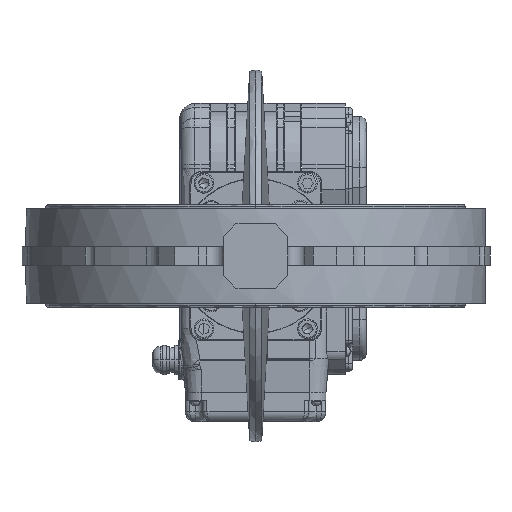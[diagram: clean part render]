
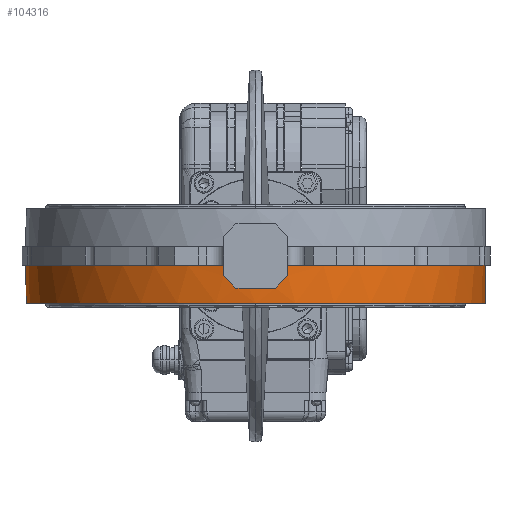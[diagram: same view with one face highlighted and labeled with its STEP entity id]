
A CAD part, front view. The second image highlights one B-rep face of the part: STEP entity #104316.
In plain terms, the highlighted conical face has half-angle 1.013 degrees and reference radius 186.548 mm.
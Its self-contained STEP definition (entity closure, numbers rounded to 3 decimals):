
#2987 = ORIENTED_EDGE ( 'NONE', *, *, #92356, .T. ) ;
#3314 = ORIENTED_EDGE ( 'NONE', *, *, #9504, .T. ) ;
#7106 = VECTOR ( 'NONE', #72725, 1000. ) ;
#9504 = EDGE_CURVE ( 'NONE', #18935, #60665, #19362, .T. ) ;
#12051 = CIRCLE ( 'NONE', #83320, 186.548 ) ;
#12145 = ORIENTED_EDGE ( 'NONE', *, *, #82039, .T. ) ;
#15359 = CARTESIAN_POINT ( 'NONE',  ( -186.548, 0., -7.5 ) ) ;
#16481 = CARTESIAN_POINT ( 'NONE',  ( 16., -185.532, -26. ) ) ;
#16822 = CARTESIAN_POINT ( 'NONE',  ( -16., -185.532, -26. ) ) ;
#17786 = CARTESIAN_POINT ( 'NONE',  ( 26., -184.727, -7.5 ) ) ;
#18935 = VERTEX_POINT ( 'NONE', #54972 ) ;
#19226 = DIRECTION ( 'NONE',  ( 0., 0., -1. ) ) ;
#19362 =( BOUNDED_CURVE ( )  B_SPLINE_CURVE ( 3, ( #16822, #64164, #40715, #41734 ),
 .UNSPECIFIED., .F., .T. ) 
 B_SPLINE_CURVE_WITH_KNOTS ( ( 4, 4 ),
 ( 4.781, 4.835 ),
 .UNSPECIFIED. ) 
 CURVE ( )  GEOMETRIC_REPRESENTATION_ITEM ( )  RATIONAL_B_SPLINE_CURVE ( ( 1., 1., 1., 1. ) ) 
 REPRESENTATION_ITEM ( '' )  );
#20999 = CARTESIAN_POINT ( 'NONE',  ( 0., 0., -7.5 ) ) ;
#21391 = VERTEX_POINT ( 'NONE', #97030 ) ;
#21530 = CARTESIAN_POINT ( 'NONE',  ( 0., 0., -7.5 ) ) ;
#26313 = CARTESIAN_POINT ( 'NONE',  ( 26., -184.677, -10.333 ) ) ;
#27920 = CARTESIAN_POINT ( 'NONE',  ( 26., -184.727, -7.5 ) ) ;
#28275 = ORIENTED_EDGE ( 'NONE', *, *, #80961, .T. ) ;
#28597 = VERTEX_POINT ( 'NONE', #72750 ) ;
#29683 = VECTOR ( 'NONE', #46387, 1000. ) ;
#31813 = CARTESIAN_POINT ( 'NONE',  ( 186., 0., -38.5 ) ) ;
#31894 = CARTESIAN_POINT ( 'NONE',  ( 22.676, -184.985, -19.324 ) ) ;
#33468 = EDGE_CURVE ( 'NONE', #43478, #18935, #81772, .T. ) ;
#34260 = CARTESIAN_POINT ( 'NONE',  ( 26., -184.576, -16. ) ) ;
#38008 = EDGE_CURVE ( 'NONE', #103560, #43478, #85423, .T. ) ;
#39180 = CARTESIAN_POINT ( 'NONE',  ( -26., -184.677, -10.333 ) ) ;
#40715 = CARTESIAN_POINT ( 'NONE',  ( -22.676, -184.985, -19.324 ) ) ;
#41734 = CARTESIAN_POINT ( 'NONE',  ( -26., -184.576, -16. ) ) ;
#42946 = ORIENTED_EDGE ( 'NONE', *, *, #61543, .T. ) ;
#43339 = DIRECTION ( 'NONE',  ( 1., 0., 0. ) ) ;
#43478 = VERTEX_POINT ( 'NONE', #86624 ) ;
#43631 = CARTESIAN_POINT ( 'NONE',  ( 0., 0., -7.5 ) ) ;
#43770 = DIRECTION ( 'NONE',  ( 0., 0., -1. ) ) ;
#44376 = AXIS2_PLACEMENT_3D ( 'NONE', #44804, #43770, #91162 ) ;
#44804 = CARTESIAN_POINT ( 'NONE',  ( 0., 0., -26. ) ) ;
#46387 = DIRECTION ( 'NONE',  ( 0.018, 0., 1. ) ) ;
#47130 = CARTESIAN_POINT ( 'NONE',  ( -26., -184.626, -13.167 ) ) ;
#48599 = CARTESIAN_POINT ( 'NONE',  ( 26., -184.576, -16. ) ) ;
#48769 = LINE ( 'NONE', #15359, #7106 ) ;
#51029 = DIRECTION ( 'NONE',  ( 1., 0., 0. ) ) ;
#52975 = AXIS2_PLACEMENT_3D ( 'NONE', #43631, #19226, #58599 ) ;
#53390 = FACE_OUTER_BOUND ( 'NONE', #87241, .T. ) ;
#53805 = ORIENTED_EDGE ( 'NONE', *, *, #38008, .T. ) ;
#53921 = DIRECTION ( 'NONE',  ( 0., 0., 1. ) ) ;
#54972 = CARTESIAN_POINT ( 'NONE',  ( -16., -185.532, -26. ) ) ;
#56478 = ORIENTED_EDGE ( 'NONE', *, *, #83066, .F. ) ;
#58027 = AXIS2_PLACEMENT_3D ( 'NONE', #59041, #67034, #51029 ) ;
#58599 = DIRECTION ( 'NONE',  ( 1., 0., 0. ) ) ;
#59041 = CARTESIAN_POINT ( 'NONE',  ( 0., 0., -38.5 ) ) ;
#60665 = VERTEX_POINT ( 'NONE', #69355 ) ;
#61543 = EDGE_CURVE ( 'NONE', #21391, #78620, #88585, .T. ) ;
#61676 = B_SPLINE_CURVE_WITH_KNOTS ( 'NONE', 3,
 ( #17786, #26313, #73571, #34260 ),
 .UNSPECIFIED., .F., .F.,
 ( 4, 4 ),
 ( 0., 1. ),
 .UNSPECIFIED. ) ;
#62398 = CARTESIAN_POINT ( 'NONE',  ( 186.548, 0., -7.5 ) ) ;
#64164 = CARTESIAN_POINT ( 'NONE',  ( -19.342, -185.304, -22.658 ) ) ;
#64334 = CARTESIAN_POINT ( 'NONE',  ( 19.342, -185.304, -22.658 ) ) ;
#66134 = CARTESIAN_POINT ( 'NONE',  ( -26., -184.727, -7.5 ) ) ;
#67034 = DIRECTION ( 'NONE',  ( 0., 0., 1. ) ) ;
#68314 = ORIENTED_EDGE ( 'NONE', *, *, #33468, .T. ) ;
#69355 = CARTESIAN_POINT ( 'NONE',  ( -26., -184.576, -16. ) ) ;
#72725 = DIRECTION ( 'NONE',  ( -0.018, 0., 1. ) ) ;
#72750 = CARTESIAN_POINT ( 'NONE',  ( 186.548, 0., -7.5 ) ) ;
#73571 = CARTESIAN_POINT ( 'NONE',  ( 26., -184.626, -13.167 ) ) ;
#75807 = VERTEX_POINT ( 'NONE', #87423 ) ;
#78620 = VERTEX_POINT ( 'NONE', #31813 ) ;
#79136 = CONICAL_SURFACE ( 'NONE', #82478, 186.548, 0.018 ) ;
#80059 = CARTESIAN_POINT ( 'NONE',  ( -26., -184.576, -16. ) ) ;
#80961 = EDGE_CURVE ( 'NONE', #28597, #90479, #12051, .T. ) ;
#81772 = CIRCLE ( 'NONE', #44376, 186.221 ) ;
#82039 = EDGE_CURVE ( 'NONE', #83975, #75807, #103955, .T. ) ;
#82061 = B_SPLINE_CURVE_WITH_KNOTS ( 'NONE', 3,
 ( #80059, #47130, #39180, #90729 ),
 .UNSPECIFIED., .F., .F.,
 ( 4, 4 ),
 ( 0., 1. ),
 .UNSPECIFIED. ) ;
#82478 = AXIS2_PLACEMENT_3D ( 'NONE', #20999, #53921, #85805 ) ;
#83066 = EDGE_CURVE ( 'NONE', #21391, #75807, #48769, .T. ) ;
#83320 = AXIS2_PLACEMENT_3D ( 'NONE', #21530, #84265, #43339 ) ;
#83975 = VERTEX_POINT ( 'NONE', #66134 ) ;
#84265 = DIRECTION ( 'NONE',  ( 0., 0., -1. ) ) ;
#85423 =( BOUNDED_CURVE ( )  B_SPLINE_CURVE ( 3, ( #104750, #31894, #64334, #16481 ),
 .UNSPECIFIED., .F., .T. ) 
 B_SPLINE_CURVE_WITH_KNOTS ( ( 4, 4 ),
 ( 1.448, 1.502 ),
 .UNSPECIFIED. ) 
 CURVE ( )  GEOMETRIC_REPRESENTATION_ITEM ( )  RATIONAL_B_SPLINE_CURVE ( ( 1., 1., 1., 1. ) ) 
 REPRESENTATION_ITEM ( '' )  );
#85805 = DIRECTION ( 'NONE',  ( 1., 0., 0. ) ) ;
#86276 = LINE ( 'NONE', #62398, #29683 ) ;
#86624 = CARTESIAN_POINT ( 'NONE',  ( 16., -185.532, -26. ) ) ;
#87241 = EDGE_LOOP ( 'NONE', ( #56478, #42946, #95840, #28275, #100773, #53805, #68314, #3314, #2987, #12145 ) ) ;
#87423 = CARTESIAN_POINT ( 'NONE',  ( -186.548, 0., -7.5 ) ) ;
#88585 = CIRCLE ( 'NONE', #58027, 186. ) ;
#90445 = EDGE_CURVE ( 'NONE', #78620, #28597, #86276, .T. ) ;
#90479 = VERTEX_POINT ( 'NONE', #27920 ) ;
#90729 = CARTESIAN_POINT ( 'NONE',  ( -26., -184.727, -7.5 ) ) ;
#91162 = DIRECTION ( 'NONE',  ( 1., 0., 0. ) ) ;
#92356 = EDGE_CURVE ( 'NONE', #60665, #83975, #82061, .T. ) ;
#95840 = ORIENTED_EDGE ( 'NONE', *, *, #90445, .T. ) ;
#97030 = CARTESIAN_POINT ( 'NONE',  ( -186., 0., -38.5 ) ) ;
#100773 = ORIENTED_EDGE ( 'NONE', *, *, #102652, .T. ) ;
#102652 = EDGE_CURVE ( 'NONE', #90479, #103560, #61676, .T. ) ;
#103560 = VERTEX_POINT ( 'NONE', #48599 ) ;
#103955 = CIRCLE ( 'NONE', #52975, 186.548 ) ;
#104316 = ADVANCED_FACE ( 'NONE', ( #53390 ), #79136, .T. ) ;
#104750 = CARTESIAN_POINT ( 'NONE',  ( 26., -184.576, -16. ) ) ;
